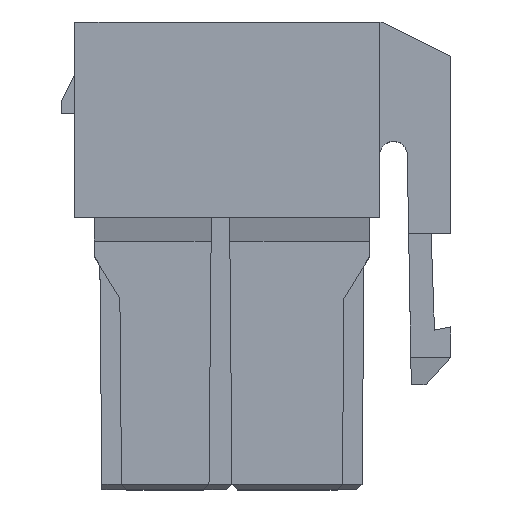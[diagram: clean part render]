
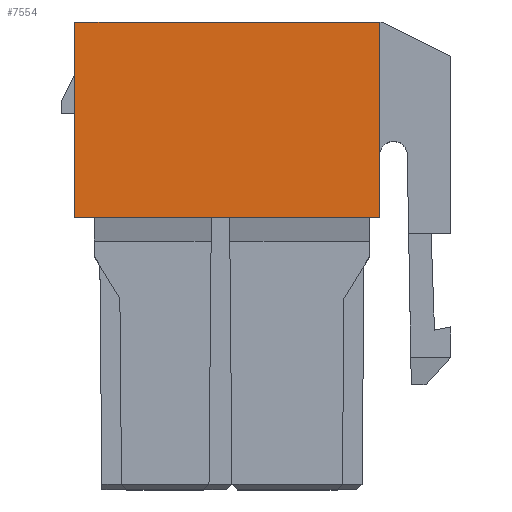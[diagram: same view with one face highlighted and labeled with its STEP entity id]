
A CAD part, top view. The second image highlights one B-rep face of the part: STEP entity #7554.
In plain terms, the highlighted planar face has unit normal (0, 0, 1).
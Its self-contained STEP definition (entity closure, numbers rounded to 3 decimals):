
#246 = EDGE_CURVE ( 'NONE', #6568, #2194, #2436, .T. ) ;
#469 = ORIENTED_EDGE ( 'NONE', *, *, #246, .T. ) ;
#861 = DIRECTION ( 'NONE',  ( -1., 0., 0. ) ) ;
#1151 = EDGE_CURVE ( 'NONE', #2194, #5957, #2462, .T. ) ;
#1204 = VERTEX_POINT ( 'NONE', #3215 ) ;
#1332 = CARTESIAN_POINT ( 'NONE',  ( 0., 0., 9.4 ) ) ;
#1585 = DIRECTION ( 'NONE',  ( 1., 0., 0. ) ) ;
#1744 = ORIENTED_EDGE ( 'NONE', *, *, #1151, .T. ) ;
#2194 = VERTEX_POINT ( 'NONE', #7307 ) ;
#2436 = LINE ( 'NONE', #3010, #8131 ) ;
#2462 = LINE ( 'NONE', #3656, #4326 ) ;
#2963 = LINE ( 'NONE', #4932, #3352 ) ;
#3010 = CARTESIAN_POINT ( 'NONE',  ( -6.651, 9.552, 9.4 ) ) ;
#3161 = ORIENTED_EDGE ( 'NONE', *, *, #5895, .T. ) ;
#3215 = CARTESIAN_POINT ( 'NONE',  ( 6.649, 1.032, 9.4 ) ) ;
#3308 = CARTESIAN_POINT ( 'NONE',  ( 6.649, -10.848, 9.4 ) ) ;
#3352 = VECTOR ( 'NONE', #861, 1000. ) ;
#3656 = CARTESIAN_POINT ( 'NONE',  ( -6.651, 9.552, 9.4 ) ) ;
#3913 = EDGE_LOOP ( 'NONE', ( #6402, #3161, #469, #1744 ) ) ;
#4326 = VECTOR ( 'NONE', #6498, 1000. ) ;
#4592 = CARTESIAN_POINT ( 'NONE',  ( 6.649, 9.552, 9.4 ) ) ;
#4932 = CARTESIAN_POINT ( 'NONE',  ( -6.651, 1.032, 9.4 ) ) ;
#5895 = EDGE_CURVE ( 'NONE', #1204, #6568, #8000, .T. ) ;
#5957 = VERTEX_POINT ( 'NONE', #6202 ) ;
#5977 = DIRECTION ( 'NONE',  ( 0., 1., 0. ) ) ;
#6202 = CARTESIAN_POINT ( 'NONE',  ( -6.651, 1.032, 9.4 ) ) ;
#6402 = ORIENTED_EDGE ( 'NONE', *, *, #7261, .F. ) ;
#6498 = DIRECTION ( 'NONE',  ( 0., -1., 0. ) ) ;
#6568 = VERTEX_POINT ( 'NONE', #4592 ) ;
#7103 = VECTOR ( 'NONE', #5977, 1000. ) ;
#7261 = EDGE_CURVE ( 'NONE', #1204, #5957, #2963, .T. ) ;
#7300 = PLANE ( 'NONE',  #8124 ) ;
#7307 = CARTESIAN_POINT ( 'NONE',  ( -6.651, 9.552, 9.4 ) ) ;
#7554 = ADVANCED_FACE ( 'NONE', ( #7599 ), #7300, .T. ) ;
#7599 = FACE_OUTER_BOUND ( 'NONE', #3913, .T. ) ;
#7708 = DIRECTION ( 'NONE',  ( -1., 0., 0. ) ) ;
#8000 = LINE ( 'NONE', #3308, #7103 ) ;
#8124 = AXIS2_PLACEMENT_3D ( 'NONE', #1332, #8250, #1585 ) ;
#8131 = VECTOR ( 'NONE', #7708, 1000. ) ;
#8250 = DIRECTION ( 'NONE',  ( 0., 0., 1. ) ) ;
